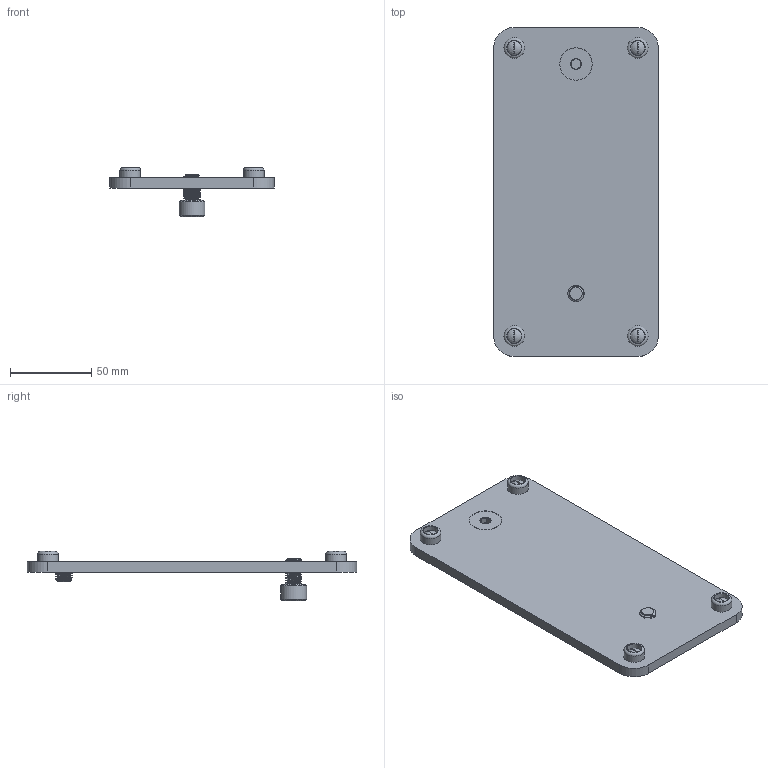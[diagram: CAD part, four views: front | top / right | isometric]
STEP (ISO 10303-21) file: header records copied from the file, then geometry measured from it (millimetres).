
FILE_DESCRIPTION(/* description */ (''),/* implementation_level */ '2;1');
FILE_NAME(/* name */ 'C:\Users\Doug Biddinger\Desktop\Demo Stand\PL-HDPL-DSTAND1.stp',/* time_stamp */ '2018-06-27T16:46:18-04:00',/* author */ ('Doug Biddinger'),/* organization */ (''),/* preprocessor_version */ 'ST-DEVELOPER v17',/* originating_system */ 'Autodesk Inventor 2019',/* authorisation */ '');
FILE_SCHEMA (('CONFIG_CONTROL_DESIGN'));
Length unit declared in the file: inch
Products named in the file (5): DISPLAY STAND; 60125; 60127; #9541; M10 X 16MM LG 
Assembly tree (7 placements, depth 2):
  DISPLAY STAND
    60125
    60127
    #9541  x4
    M10 X 16MM LG 
Bounding box: 101.6 x 203.2 x 30.31 mm (x, y, z)
Volume: 135490.5 mm3; surface area: 51102.6 mm2
Topology: 11 solids, 11 shells, 888 faces, 2341 edges, 1559 vertices
Faces by surface type: plane 617, bspline 136, cylinder 105, cone 22, sphere 4, torus 4
Full cylindrical faces by diameter (mm): 2.328 x8, 2.642 x4, 3.505 x36, 8.051 x12, 8.382 x1, 8.89 x4, 10 x11, 10.998 x1, 12.7 x5, 15.443 x1, 16 x1, 20 x1
Entity records: 30613 total; most frequent: CARTESIAN_POINT 11689, ORIENTED_EDGE 4166, DIRECTION 3199, EDGE_CURVE 2083, LINE 1651, VECTOR 1651, VERTEX_POINT 1385, EDGE_LOOP 872
